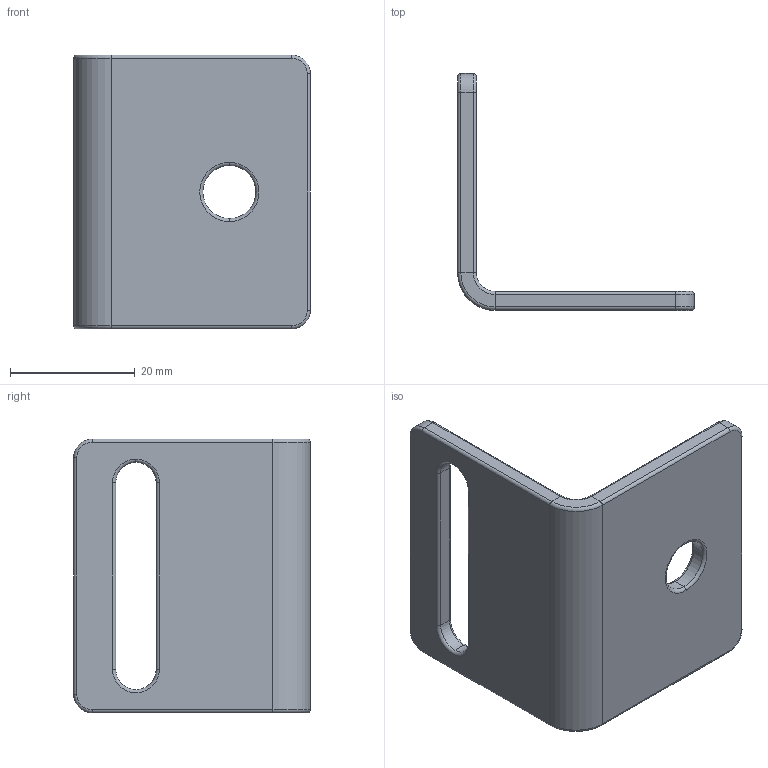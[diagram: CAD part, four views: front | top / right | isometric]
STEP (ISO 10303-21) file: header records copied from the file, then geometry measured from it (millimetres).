
FILE_DESCRIPTION (( 'STEP AP214' ), '1' );
FILE_NAME ('50-302520-Ì6.STEP', '2022-02-18T09:19:32', ( 'Home' ), ( '' ), 'SwSTEP 2.0', 'SolidWorks 2020', '' );
FILE_SCHEMA (( 'AUTOMOTIVE_DESIGN' ));
Length unit declared in the file: millimetre
Products named in the file (1): 50-302520-ﾌ6
Bounding box: 38 x 38 x 44 mm (x, y, z)
Volume: 8467.4 mm3; surface area: 6522.7 mm2
Topology: 1 solids, 1 shells, 63 faces, 139 edges, 78 vertices
Faces by surface type: cylinder 27, torus 22, plane 14
Entity records: 1767 total; most frequent: DIRECTION 351, CARTESIAN_POINT 281, ORIENTED_EDGE 278, AXIS2_PLACEMENT_3D 148, EDGE_CURVE 139, CIRCLE 84, VERTEX_POINT 78, EDGE_LOOP 67
